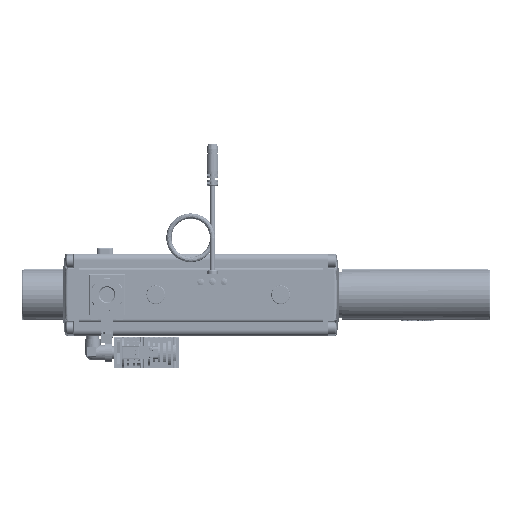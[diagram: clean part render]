
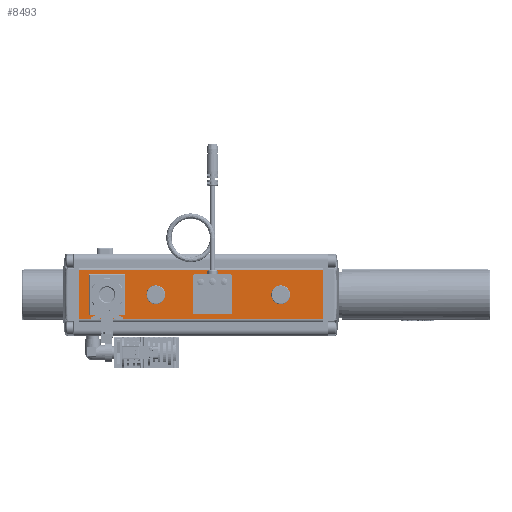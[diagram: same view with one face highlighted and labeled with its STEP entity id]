
A CAD part, top view. The second image highlights one B-rep face of the part: STEP entity #8493.
In plain terms, the highlighted planar face has unit normal (0, 0, 1).
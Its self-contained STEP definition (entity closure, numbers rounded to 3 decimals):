
#8493 = ADVANCED_FACE( '', ( #18336, #18337, #18338, #18339, #18340 ), #18341, .F. );
#18336 = FACE_OUTER_BOUND( '', #31497, .T. );
#18337 = FACE_BOUND( '', #31498, .T. );
#18338 = FACE_BOUND( '', #31499, .T. );
#18339 = FACE_BOUND( '', #31500, .T. );
#18340 = FACE_BOUND( '', #31501, .T. );
#18341 = PLANE( '', #31502 );
#31497 = EDGE_LOOP( '', ( #57345, #57346, #57347, #57348 ) );
#31498 = EDGE_LOOP( '', ( #57349, #57350 ) );
#31499 = EDGE_LOOP( '', ( #57351 ) );
#31500 = EDGE_LOOP( '', ( #57352 ) );
#31501 = EDGE_LOOP( '', ( #57353 ) );
#31502 = AXIS2_PLACEMENT_3D( '', #57354, #57355, #57356 );
#57345 = ORIENTED_EDGE( '', *, *, #72752, .T. );
#57346 = ORIENTED_EDGE( '', *, *, #74784, .T. );
#57347 = ORIENTED_EDGE( '', *, *, #73930, .F. );
#57348 = ORIENTED_EDGE( '', *, *, #75452, .F. );
#57349 = ORIENTED_EDGE( '', *, *, #73653, .T. );
#57350 = ORIENTED_EDGE( '', *, *, #70479, .T. );
#57351 = ORIENTED_EDGE( '', *, *, #74138, .F. );
#57352 = ORIENTED_EDGE( '', *, *, #65864, .F. );
#57353 = ORIENTED_EDGE( '', *, *, #72758, .F. );
#57354 = CARTESIAN_POINT( '', ( 169.5, -19., 35.875 ) );
#57355 = DIRECTION( '', ( 0., 0., -1. ) );
#57356 = DIRECTION( '', ( 0., -1., 0. ) );
#65864 = EDGE_CURVE( '', #77939, #77939, #77940, .T. );
#70479 = EDGE_CURVE( '', #80874, #80869, #85674, .T. );
#72752 = EDGE_CURVE( '', #89016, #89014, #89017, .T. );
#72758 = EDGE_CURVE( '', #89025, #89025, #89026, .T. );
#73653 = EDGE_CURVE( '', #80869, #80874, #90260, .T. );
#73930 = EDGE_CURVE( '', #90608, #90609, #90610, .T. );
#74138 = EDGE_CURVE( '', #90879, #90879, #90880, .T. );
#74784 = EDGE_CURVE( '', #89014, #90609, #91703, .T. );
#75452 = EDGE_CURVE( '', #89016, #90608, #92485, .T. );
#77939 = VERTEX_POINT( '', #95810 );
#77940 = CIRCLE( '', #95811, 7.3 );
#80869 = VERTEX_POINT( '', #100643 );
#80874 = VERTEX_POINT( '', #100648 );
#85674 = ELLIPSE( '', #108607, 4.864, 4.864 );
#89014 = VERTEX_POINT( '', #113881 );
#89016 = VERTEX_POINT( '', #113883 );
#89017 = LINE( '', #113884, #113885 );
#89025 = VERTEX_POINT( '', #113893 );
#89026 = CIRCLE( '', #113894, 5.723 );
#90260 = ELLIPSE( '', #116077, 4.864, 4.864 );
#90608 = VERTEX_POINT( '', #116605 );
#90609 = VERTEX_POINT( '', #116606 );
#90610 = LINE( '', #116607, #116608 );
#90879 = VERTEX_POINT( '', #117032 );
#90880 = CIRCLE( '', #117033, 7.3 );
#91703 = LINE( '', #118323, #118324 );
#92485 = LINE( '', #119493, #119494 );
#95810 = CARTESIAN_POINT( '', ( 39.5, 7.3, 35.875 ) );
#95811 = AXIS2_PLACEMENT_3D( '', #122485, #122486, #122487 );
#100643 = CARTESIAN_POINT( '', ( 88.364, 0.223, 35.875 ) );
#100648 = CARTESIAN_POINT( '', ( 78.636, 0.223, 35.875 ) );
#108607 = AXIS2_PLACEMENT_3D( '', #127957, #127958, #127959 );
#113881 = CARTESIAN_POINT( '', ( -20.5, 19., 35.875 ) );
#113883 = CARTESIAN_POINT( '', ( 169.5, 19., 35.875 ) );
#113884 = CARTESIAN_POINT( '', ( 169.5, 19., 35.875 ) );
#113885 = VECTOR( '', #130415, 1000. );
#113893 = CARTESIAN_POINT( '', ( 1.5, 5.723, 35.875 ) );
#113894 = AXIS2_PLACEMENT_3D( '', #130425, #130426, #130427 );
#116077 = AXIS2_PLACEMENT_3D( '', #131357, #131358, #131359 );
#116605 = CARTESIAN_POINT( '', ( 169.5, -19., 35.875 ) );
#116606 = CARTESIAN_POINT( '', ( -20.5, -19., 35.875 ) );
#116607 = CARTESIAN_POINT( '', ( 169.5, -19., 35.875 ) );
#116608 = VECTOR( '', #131614, 1000. );
#117032 = CARTESIAN_POINT( '', ( 136.5, 7.3, 35.875 ) );
#117033 = AXIS2_PLACEMENT_3D( '', #131832, #131833, #131834 );
#118323 = CARTESIAN_POINT( '', ( -20.5, -19., 35.875 ) );
#118324 = VECTOR( '', #132444, 1000. );
#119493 = CARTESIAN_POINT( '', ( 169.5, -27., 35.875 ) );
#119494 = VECTOR( '', #132992, 1000. );
#122485 = CARTESIAN_POINT( '', ( 39.5, 0., 35.875 ) );
#122486 = DIRECTION( '', ( 0., 0., 1. ) );
#122487 = DIRECTION( '', ( 0., 1., 0. ) );
#127957 = CARTESIAN_POINT( '', ( 83.5, 0.223, 35.875 ) );
#127958 = DIRECTION( '', ( 0., 0., -1. ) );
#127959 = DIRECTION( '', ( 0., 1., 0. ) );
#130415 = DIRECTION( '', ( -1., 0., 0. ) );
#130425 = CARTESIAN_POINT( '', ( 1.5, 0., 35.875 ) );
#130426 = DIRECTION( '', ( 0., 0., 1. ) );
#130427 = DIRECTION( '', ( 0., 1., 0. ) );
#131357 = CARTESIAN_POINT( '', ( 83.5, 0.223, 35.875 ) );
#131358 = DIRECTION( '', ( 0., 0., -1. ) );
#131359 = DIRECTION( '', ( 0., 1., 0. ) );
#131614 = DIRECTION( '', ( -1., 0., 0. ) );
#131832 = CARTESIAN_POINT( '', ( 136.5, 0., 35.875 ) );
#131833 = DIRECTION( '', ( 0., 0., 1. ) );
#131834 = DIRECTION( '', ( 0., 1., 0. ) );
#132444 = DIRECTION( '', ( 0., -1., 0. ) );
#132992 = DIRECTION( '', ( 0., -1., 0. ) );
